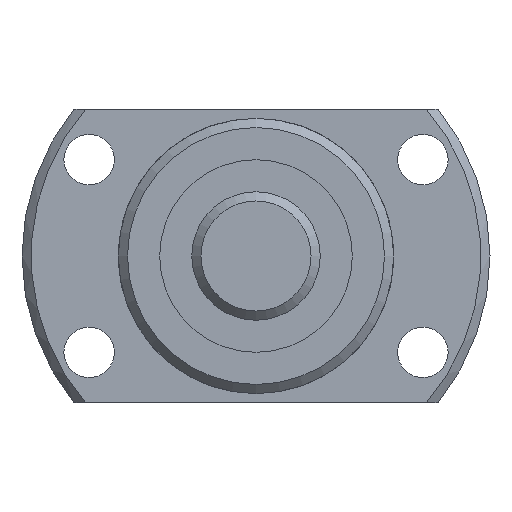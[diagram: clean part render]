
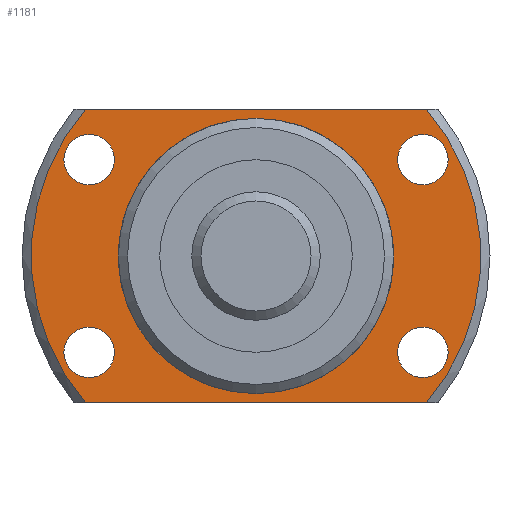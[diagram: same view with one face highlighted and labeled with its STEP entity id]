
A CAD part, left-side view. The second image highlights one B-rep face of the part: STEP entity #1181.
In plain terms, the highlighted planar face has unit normal (-1, 0, 0).
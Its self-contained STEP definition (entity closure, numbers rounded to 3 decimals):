
#117=CIRCLE('',#1310,14.8);
#120=CIRCLE('',#1314,24.5);
#126=CIRCLE('',#1325,2.75);
#127=CIRCLE('',#1326,2.75);
#128=CIRCLE('',#1327,2.75);
#129=CIRCLE('',#1328,2.75);
#130=CIRCLE('',#1329,24.5);
#272=ORIENTED_EDGE('',*,*,#546,.T.);
#273=ORIENTED_EDGE('',*,*,#547,.T.);
#274=ORIENTED_EDGE('',*,*,#548,.T.);
#275=ORIENTED_EDGE('',*,*,#549,.T.);
#276=ORIENTED_EDGE('',*,*,#535,.F.);
#277=ORIENTED_EDGE('',*,*,#550,.T.);
#278=ORIENTED_EDGE('',*,*,#551,.F.);
#279=ORIENTED_EDGE('',*,*,#552,.T.);
#280=ORIENTED_EDGE('',*,*,#529,.T.);
#529=EDGE_CURVE('',#676,#676,#117,.T.);
#535=EDGE_CURVE('',#681,#682,#120,.T.);
#546=EDGE_CURVE('',#691,#691,#126,.T.);
#547=EDGE_CURVE('',#692,#692,#127,.T.);
#548=EDGE_CURVE('',#693,#693,#128,.T.);
#549=EDGE_CURVE('',#694,#694,#129,.T.);
#550=EDGE_CURVE('',#681,#695,#772,.T.);
#551=EDGE_CURVE('',#696,#695,#130,.T.);
#552=EDGE_CURVE('',#696,#682,#773,.T.);
#676=VERTEX_POINT('',#1922);
#681=VERTEX_POINT('',#1936);
#682=VERTEX_POINT('',#1938);
#691=VERTEX_POINT('',#1972);
#692=VERTEX_POINT('',#1974);
#693=VERTEX_POINT('',#1976);
#694=VERTEX_POINT('',#1978);
#695=VERTEX_POINT('',#1980);
#696=VERTEX_POINT('',#1982);
#772=LINE('',#1979,#834);
#773=LINE('',#1983,#835);
#834=VECTOR('',#1590,1000.);
#835=VECTOR('',#1593,1000.);
#920=EDGE_LOOP('',(#272));
#921=EDGE_LOOP('',(#273));
#922=EDGE_LOOP('',(#274));
#923=EDGE_LOOP('',(#275));
#924=EDGE_LOOP('',(#276,#277,#278,#279));
#925=EDGE_LOOP('',(#280));
#1040=FACE_BOUND('',#920,.T.);
#1041=FACE_BOUND('',#921,.T.);
#1042=FACE_BOUND('',#922,.T.);
#1043=FACE_BOUND('',#923,.T.);
#1044=FACE_BOUND('',#924,.T.);
#1045=FACE_BOUND('',#925,.T.);
#1125=PLANE('',#1324);
#1181=ADVANCED_FACE('',(#1040,#1041,#1042,#1043,#1044,#1045),#1125,.F.);
#1310=AXIS2_PLACEMENT_3D('',#1921,#1548,#1549);
#1314=AXIS2_PLACEMENT_3D('',#1937,#1558,#1559);
#1324=AXIS2_PLACEMENT_3D('',#1970,#1580,#1581);
#1325=AXIS2_PLACEMENT_3D('',#1971,#1582,#1583);
#1326=AXIS2_PLACEMENT_3D('',#1973,#1584,#1585);
#1327=AXIS2_PLACEMENT_3D('',#1975,#1586,#1587);
#1328=AXIS2_PLACEMENT_3D('',#1977,#1588,#1589);
#1329=AXIS2_PLACEMENT_3D('',#1981,#1591,#1592);
#1548=DIRECTION('',(1.,0.,0.));
#1549=DIRECTION('',(0.,0.,-1.));
#1558=DIRECTION('',(1.,0.,0.));
#1559=DIRECTION('',(0.,0.,-1.));
#1580=DIRECTION('',(1.,0.,0.));
#1581=DIRECTION('',(0.,0.,-1.));
#1582=DIRECTION('',(1.,0.,0.));
#1583=DIRECTION('',(0.,0.,-1.));
#1584=DIRECTION('',(1.,0.,0.));
#1585=DIRECTION('',(0.,0.,-1.));
#1586=DIRECTION('',(1.,0.,0.));
#1587=DIRECTION('',(0.,0.,-1.));
#1588=DIRECTION('',(1.,0.,0.));
#1589=DIRECTION('',(0.,0.,-1.));
#1590=DIRECTION('',(0.,-1.,0.));
#1591=DIRECTION('',(1.,0.,0.));
#1592=DIRECTION('',(0.,0.,-1.));
#1593=DIRECTION('',(0.,1.,0.));
#1921=CARTESIAN_POINT('',(27.,0.,0.));
#1922=CARTESIAN_POINT('',(27.,0.,-14.8));
#1936=CARTESIAN_POINT('',(27.,18.554,-16.));
#1937=CARTESIAN_POINT('',(27.,0.,0.));
#1938=CARTESIAN_POINT('',(27.,18.554,16.));
#1970=CARTESIAN_POINT('',(27.,14.8,0.));
#1971=CARTESIAN_POINT('',(27.,-18.187,-10.5));
#1972=CARTESIAN_POINT('',(27.,-18.187,-13.25));
#1973=CARTESIAN_POINT('',(27.,-18.187,10.5));
#1974=CARTESIAN_POINT('',(27.,-18.187,7.75));
#1975=CARTESIAN_POINT('',(27.,18.187,-10.5));
#1976=CARTESIAN_POINT('',(27.,18.187,-13.25));
#1977=CARTESIAN_POINT('',(27.,18.187,10.5));
#1978=CARTESIAN_POINT('',(27.,18.187,7.75));
#1979=CARTESIAN_POINT('',(27.,14.8,-16.));
#1980=CARTESIAN_POINT('',(27.,-18.554,-16.));
#1981=CARTESIAN_POINT('',(27.,0.,0.));
#1982=CARTESIAN_POINT('',(27.,-18.554,16.));
#1983=CARTESIAN_POINT('',(27.,14.8,16.));
